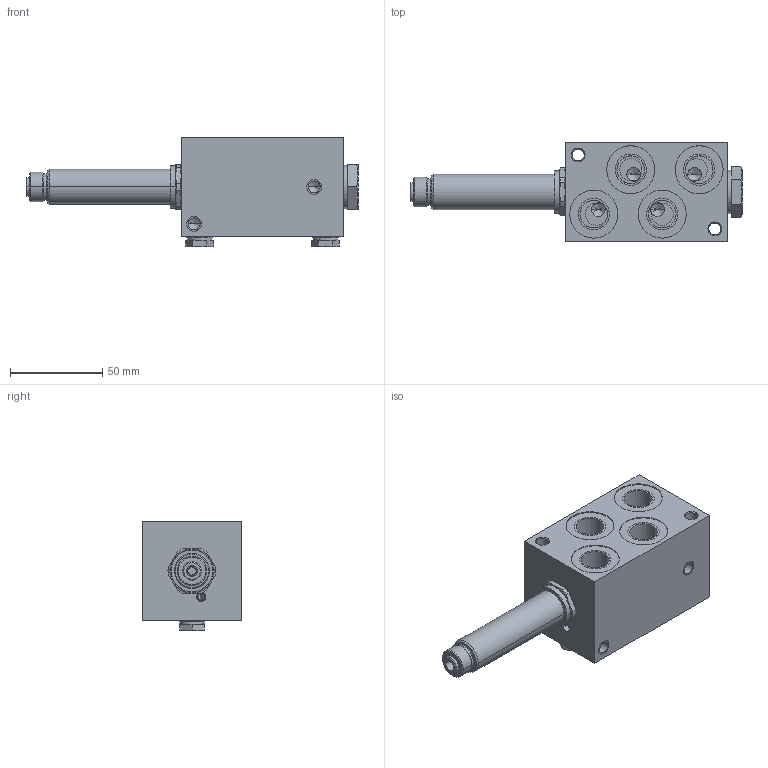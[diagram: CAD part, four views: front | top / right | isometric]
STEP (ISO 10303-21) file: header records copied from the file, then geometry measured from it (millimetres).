
FILE_DESCRIPTION((''),'2;1');
FILE_NAME('EDF7_ASM','2018-04-04T',('Fil'),('"O.R.T.A. srl Brescia"'),'PRO/ENGINEER BY PARAMETRIC TECHNOLOGY CORPORATION, 2012360','PRO/ENGINEER BY PARAMETRIC TECHNOLOGY CORPORATION, 2012360','');
FILE_SCHEMA(('CONFIG_CONTROL_DESIGN'));
Length unit declared in the file: millimetre
Products named in the file (11): CO_EDF7; STE_EDF7; TUBO_CC6; TAP_SF_EDF7; SFE_4_; RON_GM1500_M8; ASTA_CC6_EDF7; TAP_MOL_EDF7; EL8_RON_MOLL; M053_IMP12VIRGOLA7; EDF7_ASM
Assembly tree (15 placements, depth 2):
  EDF7_ASM
    CO_EDF7
    STE_EDF7
    TUBO_CC6
    TAP_SF_EDF7  x2
    SFE_4_  x2
    RON_GM1500_M8  x2
    ASTA_CC6_EDF7
    TAP_MOL_EDF7
    EL8_RON_MOLL  x2
    M053_IMP12VIRGOLA7  x2
Bounding box: 179.7 x 54 x 59.5 mm (x, y, z)
Volume: 237025.1 mm3; surface area: 69023.8 mm2
Topology: 15 solids, 32 shells, 643 faces, 1512 edges, 932 vertices
Faces by surface type: cylinder 296, plane 165, cone 154, torus 16, bspline 8, sphere 4
Entity records: 19037 total; most frequent: CARTESIAN_POINT 6020, DIRECTION 2886, ORIENTED_EDGE 2448, EDGE_CURVE 1256, AXIS2_PLACEMENT_3D 1214, VERTEX_POINT 793, EDGE_LOOP 671, CIRCLE 636
